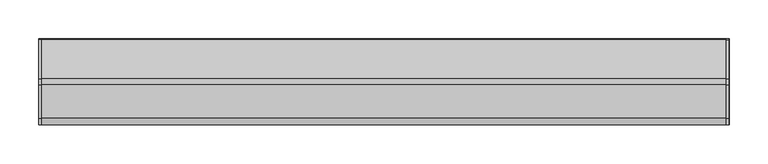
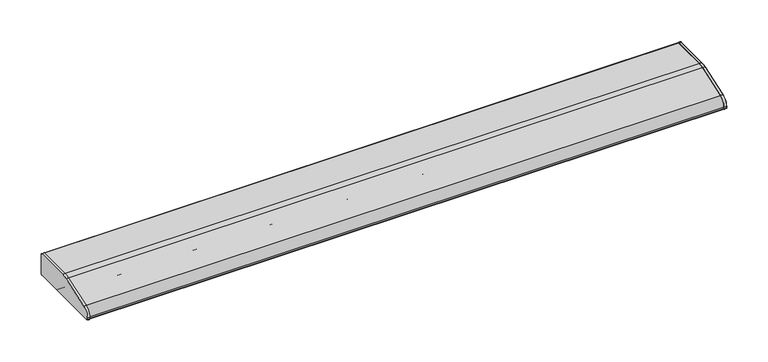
"""IFC4 building model written with IfcOpenShell, lengths in millimetres: light fixture geometry, HermanMiller_SupplementalProducts_G6136_UtilityTaskLight : AO Etho Canvas 42W."""

import ifcopenshell
import ifcopenshell.guid

model = None  # the IFC model being written
_history = None  # IfcOwnerHistory: only IFC2X3 demands one
_inside = {}  # id of a spatial element -> (the spatial element, [elements in it])
_under = {}  # id of a project, library or spatial element -> (it, [spatial elements below it])
_declared = {}  # id of a project -> (the project, [libraries it declares])
_typed = {}  # id of a type object -> (the type object, [elements of that type])
_made_of = {}  # id of a material, layer set ... -> (it, [elements and type objects made of it])


def new_model(schema):
    """Start an empty IFC model of exactly this schema.

    Asked for "IFC4X3", IfcOpenShell would pick the latest addendum, in which some entities
    have other attributes; the version numbers below select the first issue.
    IFC2X3 requires an IfcOwnerHistory on every rooted entity: one is made here for all.
    """
    global model, _history
    if schema == "IFC4X3":
        model = ifcopenshell.file(schema_version=(4, 3, 0, 0))
    else:
        model = ifcopenshell.file(schema=schema)
    _inside.clear()
    _under.clear()
    _declared.clear()
    _typed.clear()
    _made_of.clear()
    _history = None
    if model.schema == "IFC2X3":
        org = make("IfcOrganization", Name="unknown")
        user = make(
            "IfcPersonAndOrganization",
            ThePerson=make("IfcPerson", FamilyName="unknown"),
            TheOrganization=org,
        )
        app = make(
            "IfcApplication",
            ApplicationDeveloper=org,
            Version="unknown",
            ApplicationFullName="unknown",
            ApplicationIdentifier="unknown",
        )
        _history = make(
            "IfcOwnerHistory",
            OwningUser=user,
            OwningApplication=app,
            ChangeAction="ADDED",
            CreationDate=0,
        )
    return model


def make(cls, **values):
    """One entity of the class cls with the attributes given. An attribute that is None is left unset."""
    return model.create_entity(
        cls, **{name: value for name, value in values.items() if value is not None}
    )


def rooted(cls, **values):
    """An entity with a GlobalId (a new one), such as an element, a storey or a relation."""
    return make(cls, GlobalId=ifcopenshell.guid.new(), OwnerHistory=_history, **values)


def si_unit(unit_type, name, prefix=None):
    """IfcSIUnit, for example si_unit("LENGTHUNIT", "METRE", prefix="MILLI")."""
    return make("IfcSIUnit", UnitType=unit_type, Prefix=prefix, Name=name)


def assignment(units):
    """IfcUnitAssignment: the units of a project."""
    return None if units is None else make("IfcUnitAssignment", Units=units)


def point(xyz):
    """IfcCartesianPoint."""
    return None if xyz is None else make("IfcCartesianPoint", Coordinates=xyz)


def direction(xyz):
    """IfcDirection."""
    return None if xyz is None else make("IfcDirection", DirectionRatios=xyz)


def frame(location, z_axis=None, x_axis=None):
    """IfcAxis2Placement3D, a coordinate frame: its origin and axes. An axis left out is left unset."""
    return make(
        "IfcAxis2Placement3D",
        Location=point(location),
        Axis=direction(z_axis),
        RefDirection=direction(x_axis),
    )


def frame_2d(location, x_axis=None):
    """IfcAxis2Placement2D, a coordinate frame in the plane: its origin and x axis."""
    return make(
        "IfcAxis2Placement2D", Location=point(location), RefDirection=direction(x_axis)
    )


def origin():
    """The frame at (0, 0, 0) with its axes left unset."""
    return frame((0.0, 0.0, 0.0))


def place(relative_to, where):
    """IfcLocalPlacement: puts the frame where relative to a parent placement (None: the world)."""
    return make(
        "IfcLocalPlacement", PlacementRelTo=relative_to, RelativePlacement=where
    )


def context(
    kind, dimensions, precision=None, world=None, true_north=None, identifier=None
):
    """IfcGeometricRepresentationContext, for example the 3D "Model" context."""
    return make(
        "IfcGeometricRepresentationContext",
        ContextIdentifier=identifier,
        ContextType=kind,
        CoordinateSpaceDimension=dimensions,
        Precision=precision,
        WorldCoordinateSystem=world,
        TrueNorth=true_north,
    )


def project(units=None, contexts=None):
    """IfcProject with its units and contexts."""
    return rooted(
        "IfcProject",
        Name="project",
        RepresentationContexts=contexts,
        UnitsInContext=assignment(units),
    )


def spatial(cls, under=None, at=None, **own):
    """A site, building, storey or space (cls), placed at a placement, below another one or the project."""
    s = rooted(cls, ObjectPlacement=at, **own)
    if under is not None:
        _under.setdefault(under.id(), (under, []))[1].append(s)
    return s


def polyline(points):
    """IfcPolyline through the points."""
    return make("IfcPolyline", Points=[point(p) for p in points])


def circle_curve(where, radius):
    """IfcCircle in the frame where."""
    return make("IfcCircle", Position=where, Radius=radius)


def trimmed(basis, trim1, trim2, sense, master):
    """IfcTrimmedCurve: the piece of a basis curve between two trims."""
    return make(
        "IfcTrimmedCurve",
        BasisCurve=basis,
        Trim1=trim1,
        Trim2=trim2,
        SenseAgreement=sense,
        MasterRepresentation=master,
    )


def segment(curve, same_sense, transition):
    """IfcCompositeCurveSegment."""
    return make(
        "IfcCompositeCurveSegment",
        Transition=transition,
        SameSense=same_sense,
        ParentCurve=curve,
    )


def composite_curve(segments, self_intersect=None):
    """IfcCompositeCurve: segments joined end to end."""
    return make("IfcCompositeCurve", Segments=segments, SelfIntersect=self_intersect)


def outline(outer, holes=None, kind="AREA"):
    """IfcArbitraryClosedProfileDef: a profile drawn as a closed curve; with holes, ...WithVoids."""
    if holes is None:
        return make("IfcArbitraryClosedProfileDef", ProfileType=kind, OuterCurve=outer)
    return make(
        "IfcArbitraryProfileDefWithVoids",
        ProfileType=kind,
        OuterCurve=outer,
        InnerCurves=holes,
    )


def extrude(swept, where, along, depth):
    """IfcExtrudedAreaSolid: the profile swept, set in the frame where, extruded along a direction by depth."""
    return make(
        "IfcExtrudedAreaSolid",
        SweptArea=swept,
        Position=where,
        ExtrudedDirection=direction(along),
        Depth=depth,
    )


def shape(context_of_items, identifier, shape_type, items):
    """IfcShapeRepresentation: the items that make up one representation, for example the "Body"."""
    return make(
        "IfcShapeRepresentation",
        ContextOfItems=context_of_items,
        RepresentationIdentifier=identifier,
        RepresentationType=shape_type,
        Items=items,
    )


def source(mapping_origin, context_of_items, identifier, shape_type, items):
    """IfcRepresentationMap: a shape defined once, which mapped items show again and again."""
    return make(
        "IfcRepresentationMap",
        MappingOrigin=mapping_origin,
        MappedRepresentation=shape(context_of_items, identifier, shape_type, items),
    )


def transform(
    local_origin,
    x_axis=None,
    y_axis=None,
    z_axis=None,
    scale=None,
    scale2=None,
    scale3=None,
    uniform=True,
):
    """IfcCartesianTransformationOperator3D, or its non-uniform kind. x_axis, y_axis, z_axis: its Axis1, 2, 3."""
    if uniform:
        return make(
            "IfcCartesianTransformationOperator3D",
            Axis1=direction(x_axis),
            Axis2=direction(y_axis),
            LocalOrigin=point(local_origin),
            Scale=scale,
            Axis3=direction(z_axis),
        )
    return make(
        "IfcCartesianTransformationOperator3DnonUniform",
        Axis1=direction(x_axis),
        Axis2=direction(y_axis),
        LocalOrigin=point(local_origin),
        Scale=scale,
        Axis3=direction(z_axis),
        Scale2=scale2,
        Scale3=scale3,
    )


def mapped(mapping_source, mapping_target):
    """IfcMappedItem: shows the shape of a source again, moved by a transform."""
    return make(
        "IfcMappedItem", MappingSource=mapping_source, MappingTarget=mapping_target
    )


def made_of(thing, what):
    """Note that an element or type object is made of a material, layer set ...; save() writes the relation."""
    if what is not None:
        _made_of.setdefault(what.id(), (what, []))[1].append(thing)
    return thing


def element(
    cls,
    number,
    at=None,
    inside=None,
    cuts=None,
    type_object=None,
    material=None,
    context=None,
    identifier="Body",
    shape_type=None,
    held_by="IfcProductDefinitionShape",
    body=None,
    shapes=None,
    **own,
):
    """One element of the class cls, such as IfcWall. Its Tag is "e" and its number.

    at: its placement. inside: the storey or other place that contains it. cuts: it is an
    opening in that element (IfcRelVoidsElement). A single representation is given by context,
    identifier, shape_type and body (its items); several are given by shapes. held_by: the class
    of the entity that holds the representations. save() writes the other relations.
    """
    e = rooted(cls, Tag="e%d" % number, ObjectPlacement=at, **own)
    if body is not None:
        shapes = [shape(context, identifier, shape_type, body)]
    if shapes is not None:
        e.Representation = make(held_by, Representations=shapes)
    if inside is not None:
        _inside.setdefault(inside.id(), (inside, []))[1].append(e)
    if cuts is not None:
        rooted(
            "IfcRelVoidsElement", RelatingBuildingElement=cuts, RelatedOpeningElement=e
        )
    if type_object is not None:
        _typed.setdefault(type_object.id(), (type_object, []))[1].append(e)
    return made_of(e, material)


def aggregate(whole, parts):
    """IfcRelAggregates: a whole, such as a stair, and the parts it consists of."""
    return rooted("IfcRelAggregates", RelatingObject=whole, RelatedObjects=parts)


def save(model, path):
    """Write the relations noted so far, then the file.

    IfcRelAggregates (storeys below a building ...), IfcRelContainedInSpatialStructure (elements
    in a storey), IfcRelDefinesByType, IfcRelAssociatesMaterial and IfcRelDeclares: one each for
    every whole, place, type object, material and project.
    """
    for whole, parts in _under.values():
        aggregate(whole, parts)
    for where, things in _inside.values():
        rooted(
            "IfcRelContainedInSpatialStructure",
            RelatedElements=things,
            RelatingStructure=where,
        )
    for kind, things in _typed.values():
        rooted("IfcRelDefinesByType", RelatedObjects=things, RelatingType=kind)
    for what, things in _made_of.values():
        rooted("IfcRelAssociatesMaterial", RelatedObjects=things, RelatingMaterial=what)
    for by, libraries in _declared.values():
        rooted("IfcRelDeclares", RelatingContext=by, RelatedDefinitions=libraries)
    model.write(path)


def light_fixture_3e001c73(model_context):
    return source(origin(), model_context, "Body", "SweptSolid", [
        extrude(outline(composite_curve([segment(polyline([(53.975, 1282.7), (-53.975, 1282.7)]), True, "CONTINUOUS"), segment(trimmed(circle_curve(frame_2d((-53.975, 1284.2875)), 1.5875), [point((-53.975, 1282.7))], [point((-55.5625, 1284.2875))], False, "CARTESIAN"), True, "CONTINUOUS"), segment(polyline([(-55.5625, 1284.2875), (-55.5625, 1286.3285714)]), True, "CONTINUOUS"), segment(trimmed(circle_curve(frame_2d((-42.8625, 1286.3285714)), 12.7), [point((-55.5625, 1286.3285714))], [point((-46.9814189, 1298.3420849))], False, "CARTESIAN"), True, "CONTINUOUS"), segment(polyline([(-46.9814189, 1298.3420849), (-4.0045045, 1313.077027)]), True, "CONTINUOUS"), segment(trimmed(circle_curve(frame_2d((4.2333333, 1289.05)), 25.4), [point((-4.0045045, 1313.077027))], [point((4.2333333, 1314.45))], False, "CARTESIAN"), True, "CONTINUOUS"), segment(polyline([(4.2333333, 1314.45), (53.975, 1314.45)]), True, "CONTINUOUS"), segment(trimmed(circle_curve(frame_2d((53.975, 1312.8625)), 1.5875), [point((53.975, 1314.45))], [point((55.5625, 1312.8625))], False, "CARTESIAN"), True, "CONTINUOUS"), segment(polyline([(55.5625, 1312.8625), (55.5625, 1284.2875)]), True, "CONTINUOUS"), segment(trimmed(circle_curve(frame_2d((53.975, 1284.2875)), 1.5875), [point((55.5625, 1284.2875))], [point((53.975, 1282.7))], False, "CARTESIAN"), True, "CONTINUOUS")], self_intersect=False)), frame((441.833, 0.0, 0.0), z_axis=(1.0, 0.0, 0.0), x_axis=(0.0, 1.0, 0.0)), (0.0, 0.0, 1.0), 3.175),
        extrude(outline(composite_curve([segment(trimmed(circle_curve(frame_2d((53.975, 1312.8625)), 1.5875), [point((53.975, 1314.45))], [point((55.5625, 1312.8625))], False, "CARTESIAN"), True, "CONTINUOUS"), segment(polyline([(55.5625, 1312.8625), (55.5625, 1284.2875)]), True, "CONTINUOUS"), segment(trimmed(circle_curve(frame_2d((53.975, 1284.2875)), 1.5875), [point((55.5625, 1284.2875))], [point((53.975, 1282.7))], False, "CARTESIAN"), True, "CONTINUOUS"), segment(polyline([(53.975, 1282.7), (-53.975, 1282.7)]), True, "CONTINUOUS"), segment(trimmed(circle_curve(frame_2d((-53.975, 1284.2875)), 1.5875), [point((-53.975, 1282.7))], [point((-55.5625, 1284.2875))], False, "CARTESIAN"), True, "CONTINUOUS"), segment(polyline([(-55.5625, 1284.2875), (-55.5625, 1286.3285714)]), True, "CONTINUOUS"), segment(trimmed(circle_curve(frame_2d((-42.8625, 1286.3285714)), 12.7), [point((-55.5625, 1286.3285714))], [point((-46.9814189, 1298.3420849))], False, "CARTESIAN"), True, "CONTINUOUS"), segment(polyline([(-46.9814189, 1298.3420849), (-4.0045045, 1313.077027)]), True, "CONTINUOUS"), segment(trimmed(circle_curve(frame_2d((4.2333333, 1289.05)), 25.4), [point((-4.0045045, 1313.077027))], [point((4.2333333, 1314.45))], False, "CARTESIAN"), True, "CONTINUOUS"), segment(polyline([(4.2333333, 1314.45), (53.975, 1314.45)]), True, "CONTINUOUS")], self_intersect=False)), frame((-445.008, 0.0, 0.0), z_axis=(1.0, 0.0, 0.0), x_axis=(0.0, 1.0, 0.0)), (0.0, 0.0, 1.0), 3.175),
        extrude(outline(composite_curve([segment(polyline([(55.5625, 1312.8625), (55.5625, 1284.2875)]), True, "CONTINUOUS"), segment(trimmed(circle_curve(frame_2d((53.975, 1284.2875)), 1.5875), [point((55.5625, 1284.2875))], [point((53.975, 1282.7))], False, "CARTESIAN"), True, "CONTINUOUS"), segment(polyline([(53.975, 1282.7), (19.05, 1282.7)]), True, "CONTINUOUS"), segment(trimmed(circle_curve(frame_2d((19.05, 1284.2875)), 1.5875), [point((19.05, 1282.7))], [point((17.4625, 1284.2875))], False, "CARTESIAN"), True, "CONTINUOUS"), segment(polyline([(17.4625, 1284.2875), (17.4625, 1312.8625), (4.4979167, 1312.8625)]), True, "CONTINUOUS"), segment(trimmed(circle_curve(frame_2d((4.4979167, 1287.4625)), 25.4), [point((4.4979167, 1312.8625))], [point((-3.7399212, 1311.489527))], True, "CARTESIAN"), True, "CONTINUOUS"), segment(polyline([(-3.7399212, 1311.489527), (-37.4564189, 1299.9295849)]), True, "CONTINUOUS"), segment(trimmed(circle_curve(frame_2d((-33.3375, 1287.9160714)), 12.7), [point((-37.4564189, 1299.9295849))], [point((-46.0375, 1287.9160714))], True, "CARTESIAN"), True, "CONTINUOUS"), segment(polyline([(-46.0375, 1287.9160714), (-46.0375, 1284.2875)]), True, "CONTINUOUS"), segment(trimmed(circle_curve(frame_2d((-47.625, 1284.2875)), 1.5875), [point((-46.0375, 1284.2875))], [point((-47.625, 1282.7))], False, "CARTESIAN"), True, "CONTINUOUS"), segment(polyline([(-47.625, 1282.7), (-53.975, 1282.7)]), True, "CONTINUOUS"), segment(trimmed(circle_curve(frame_2d((-53.975, 1284.2875)), 1.5875), [point((-53.975, 1282.7))], [point((-55.5625, 1284.2875))], False, "CARTESIAN"), True, "CONTINUOUS"), segment(polyline([(-55.5625, 1284.2875), (-55.5625, 1286.3285714)]), True, "CONTINUOUS"), segment(trimmed(circle_curve(frame_2d((-42.8625, 1286.3285714)), 12.7), [point((-55.5625, 1286.3285714))], [point((-46.9814189, 1298.3420849))], False, "CARTESIAN"), True, "CONTINUOUS"), segment(polyline([(-46.9814189, 1298.3420849), (-4.0045045, 1313.077027)]), True, "CONTINUOUS"), segment(trimmed(circle_curve(frame_2d((4.2333333, 1289.05)), 25.4), [point((-4.0045045, 1313.077027))], [point((4.2333333, 1314.45))], False, "CARTESIAN"), True, "CONTINUOUS"), segment(polyline([(4.2333333, 1314.45), (53.975, 1314.45)]), True, "CONTINUOUS"), segment(trimmed(circle_curve(frame_2d((53.975, 1312.8625)), 1.5875), [point((53.975, 1314.45))], [point((55.5625, 1312.8625))], False, "CARTESIAN"), True, "CONTINUOUS")], self_intersect=False)), frame((-445.008, 0.0, 0.0), z_axis=(1.0, 0.0, 0.0), x_axis=(0.0, 1.0, 0.0)), (0.0, 0.0, 1.0), 890.4820011),
        extrude(outline(composite_curve([segment(trimmed(circle_curve(frame_2d((1.5875, 1300.1625)), 9.525), [point((-7.9375, 1300.1625))], [point((11.1125, 1300.1625))], False, "CARTESIAN"), True, "CONTINUOUS"), segment(trimmed(circle_curve(frame_2d((1.5875, 1300.1625)), 9.525), [point((11.1125, 1300.1625))], [point((-7.9375, 1300.1625))], False, "CARTESIAN"), True, "CONTINUOUS")], self_intersect=False)), frame((419.608, 0.0, 0.0), z_axis=(1.0, 0.0, 0.0), x_axis=(0.0, 1.0, 0.0)), (0.0, 0.0, 1.0), 12.7),
        extrude(outline(composite_curve([segment(trimmed(circle_curve(frame_2d((1.5875, 1300.1625)), 9.525), [point((-7.9375, 1300.1625))], [point((11.1125, 1300.1625))], False, "CARTESIAN"), True, "CONTINUOUS"), segment(trimmed(circle_curve(frame_2d((1.5875, 1300.1625)), 9.525), [point((11.1125, 1300.1625))], [point((-7.9375, 1300.1625))], False, "CARTESIAN"), True, "CONTINUOUS")], self_intersect=False)), frame((-432.308, 0.0, 0.0), z_axis=(1.0, 0.0, 0.0), x_axis=(0.0, 1.0, 0.0)), (0.0, 0.0, 1.0), 12.7),
        extrude(outline(composite_curve([segment(trimmed(circle_curve(frame_2d((1.5875, 1300.1625)), 9.525), [point((-7.9375, 1300.1625))], [point((11.1125, 1300.1625))], False, "CARTESIAN"), True, "CONTINUOUS"), segment(trimmed(circle_curve(frame_2d((1.5875, 1300.1625)), 9.525), [point((11.1125, 1300.1625))], [point((-7.9375, 1300.1625))], False, "CARTESIAN"), True, "CONTINUOUS")], self_intersect=False)), frame((-419.608, 0.0, 0.0), z_axis=(1.0, 0.0, 0.0), x_axis=(0.0, 1.0, 0.0)), (0.0, 0.0, 1.0), 839.216),
        extrude(outline(composite_curve([segment(polyline([(17.4625, 1285.875), (-46.0375, 1285.875), (-46.0375, 1287.9160714)]), True, "CONTINUOUS"), segment(trimmed(circle_curve(frame_2d((-33.3375, 1287.9160714)), 12.7), [point((-46.0375, 1287.9160714))], [point((-37.4564189, 1299.9295849))], False, "CARTESIAN"), True, "CONTINUOUS"), segment(polyline([(-37.4564189, 1299.9295849), (-3.7399212, 1311.489527)]), True, "CONTINUOUS"), segment(trimmed(circle_curve(frame_2d((4.4979167, 1287.4625)), 25.4), [point((-3.7399212, 1311.489527))], [point((4.4979167, 1312.8625))], False, "CARTESIAN"), True, "CONTINUOUS"), segment(polyline([(4.4979167, 1312.8625), (17.4625, 1312.8625), (17.4625, 1285.875)]), True, "CONTINUOUS")], self_intersect=False)), frame((432.308, 0.0, 0.0), z_axis=(1.0, 0.0, 0.0), x_axis=(0.0, 1.0, 0.0)), (0.0, 0.0, 1.0), 9.525),
        extrude(outline(composite_curve([segment(polyline([(17.4625, 1285.875), (-46.0375, 1285.875), (-46.0375, 1287.9160714)]), True, "CONTINUOUS"), segment(trimmed(circle_curve(frame_2d((-33.3375, 1287.9160714)), 12.7), [point((-46.0375, 1287.9160714))], [point((-37.4564189, 1299.9295849))], False, "CARTESIAN"), True, "CONTINUOUS"), segment(polyline([(-37.4564189, 1299.9295849), (-3.7399212, 1311.489527)]), True, "CONTINUOUS"), segment(trimmed(circle_curve(frame_2d((4.4979167, 1287.4625)), 25.4), [point((-3.7399212, 1311.489527))], [point((4.4979167, 1312.8625))], False, "CARTESIAN"), True, "CONTINUOUS"), segment(polyline([(4.4979167, 1312.8625), (17.4625, 1312.8625), (17.4625, 1285.875)]), True, "CONTINUOUS")], self_intersect=False)), frame((-441.833, 0.0, 0.0), z_axis=(1.0, 0.0, 0.0), x_axis=(0.0, 1.0, 0.0)), (0.0, 0.0, 1.0), 9.525),
    ])


if __name__ == "__main__":
    model = new_model("IFC4")
    model_context = context("Model", 3, world=origin())
    ifc_project = project(units=[si_unit("LENGTHUNIT", "METRE", prefix="MILLI")], contexts=[model_context])
    site = spatial("IfcSite", under=ifc_project)
    building = spatial("IfcBuilding", under=site)
    placement = place(None, origin())
    light_fixture_shape = light_fixture_3e001c73(model_context)
    element("IfcLightFixture", 1, ObjectType="HermanMiller_SupplementalProducts_G6136_UtilityTaskLight : AO Etho Canvas 42W", at=placement, inside=building, context=model_context, shape_type="MappedRepresentation", body=[
        mapped(light_fixture_shape, transform((0.0, 0.0, 0.0), x_axis=(1.0, 0.0, 0.0), y_axis=(0.0, 1.0, 0.0), z_axis=(0.0, 0.0, 1.0))),
    ])
    save(model, "model.ifc")
